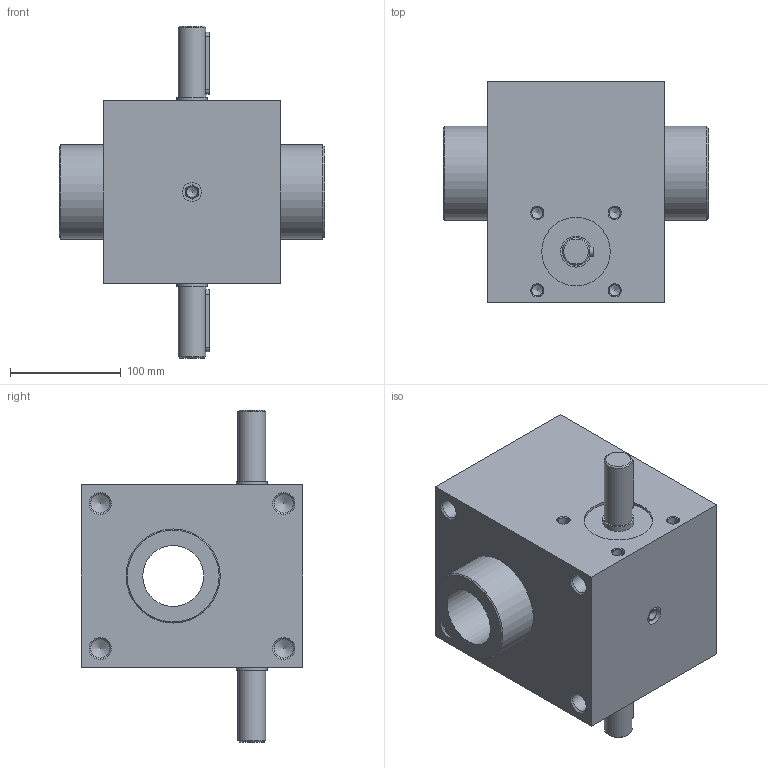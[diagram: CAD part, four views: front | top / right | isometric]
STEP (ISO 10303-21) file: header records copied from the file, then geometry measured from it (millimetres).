
FILE_DESCRIPTION(/* description */ (''),/* implementation_level */ '2;1');
FILE_NAME(/* name */ 'D:\FOLDER Tomasz Michałek\pliki z pulpitu\Katalogi przekładni\Podnośniki śrubowe\Pivexin Technology\Podnosniki - potrzebne\Modele podnosnikow\N\SG100\M5-N-91\SG100-N-H.stp',/* time_stamp */ '2016-05-17T22:29:18+02:00',/* author */ ('Tomasz'),/* organization */ (''),/* preprocessor_version */ 'ST-DEVELOPER v16.1',/* originating_system */ 'Autodesk Inventor 2016',/* authorisation */ '');
FILE_SCHEMA (('AUTOMOTIVE_DESIGN { 1 0 10303 214 3 1 1 }'));
Length unit declared in the file: millimetre
Products named in the file (3): SG100-obudowa; SG100-slimak; SG100-N-H
Assembly tree (2 placements, depth 2):
  SG100-N-H
    SG100-obudowa
    SG100-slimak
Bounding box: 240 x 200 x 300 mm (x, y, z)
Volume: 5136660.1 mm3; surface area: 301839.5 mm2
Topology: 2 solids, 2 shells, 101 faces, 229 edges, 140 vertices
Faces by surface type: cone 43, cylinder 30, plane 28
Full cylindrical faces by diameter (mm): 10.106 x8, 17 x1, 17.294 x8, 25 x2, 28 x2, 55 x1, 62 x2, 85 x2
Entity records: 2380 total; most frequent: CARTESIAN_POINT 452, DIRECTION 418, ORIENTED_EDGE 278, AXIS2_PLACEMENT_3D 189, EDGE_LOOP 178, EDGE_CURVE 139, VERTEX_POINT 115, FACE_OUTER_BOUND 101
